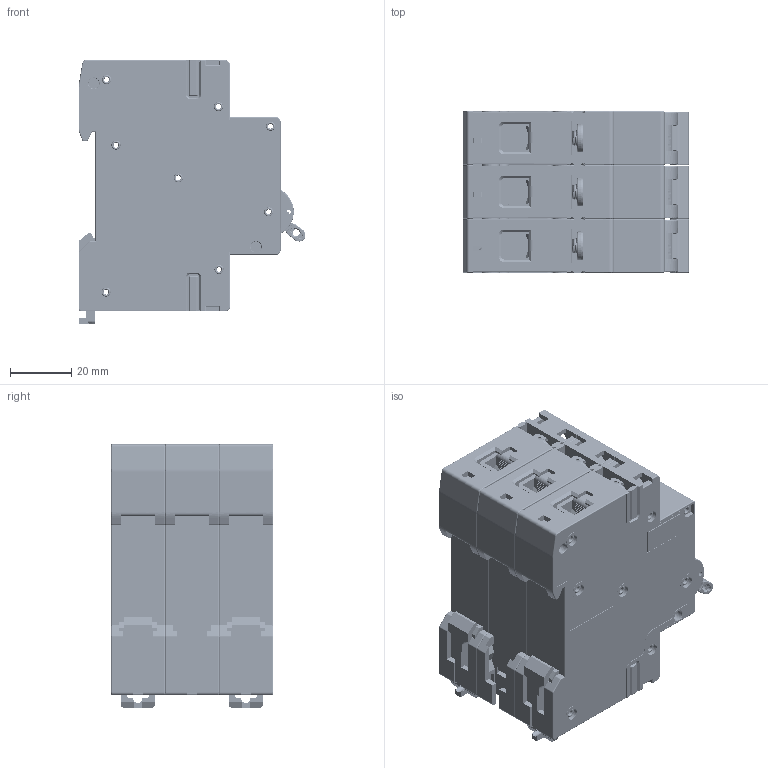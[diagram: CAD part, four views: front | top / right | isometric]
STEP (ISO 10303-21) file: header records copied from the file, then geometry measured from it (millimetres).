
FILE_DESCRIPTION (( 'STEP AP214' ), '1' );
FILE_NAME ('TDA-3C-2.STEP', '2026-05-26T12:52:44', ( '' ), ( '' ), 'SwSTEP 2.0', 'SolidWorks 2025', '' );
FILE_SCHEMA (( 'AUTOMOTIVE_DESIGN' ));
Length unit declared in the file: millimetre
Products named in the file (1): TDA-3C-2
Bounding box: 74.14 x 53 x 86 mm (x, y, z)
Volume: 85916.6 mm3; surface area: 126258.8 mm2
Topology: 64 solids, 70 shells, 7175 faces, 20666 edges, 13802 vertices
Faces by surface type: plane 4168, cylinder 2164, bspline 387, torus 264, cone 192
Entity records: 372785 total; most frequent: CARTESIAN_POINT 114506, ORIENTED_EDGE 41236, DIRECTION 34144, EDGE_CURVE 20618, VERTEX_POINT 13802, LINE 12602, VECTOR 12602, AXIS2_PLACEMENT_3D 10771
